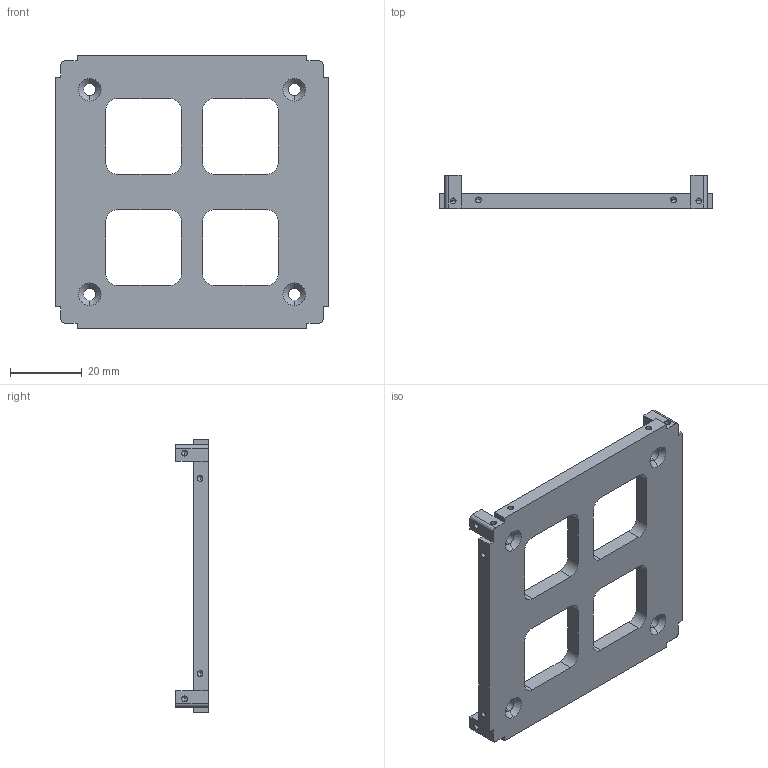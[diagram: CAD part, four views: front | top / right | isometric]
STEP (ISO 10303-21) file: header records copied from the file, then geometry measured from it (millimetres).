
FILE_DESCRIPTION (( 'STEP AP214' ), '1' );
FILE_NAME ('Bottom_Lid_v5.STEP', '2025-01-13T17:24:29', ( '' ), ( '' ), 'SwSTEP 2.0', 'SolidWorks 2022', '' );
FILE_SCHEMA (( 'AUTOMOTIVE_DESIGN' ));
Length unit declared in the file: millimetre
Products named in the file (1): Bottom_Lid_v5
Bounding box: 76 x 9.1 x 76 mm (x, y, z)
Volume: 16354 mm3; surface area: 11277.3 mm2
Topology: 1 solids, 1 shells, 170 faces, 440 edges, 256 vertices
Faces by surface type: cylinder 64, cone 56, plane 50
Entity records: 4986 total; most frequent: DIRECTION 902, CARTESIAN_POINT 835, ORIENTED_EDGE 816, EDGE_CURVE 408, AXIS2_PLACEMENT_3D 323, LINE 256, VERTEX_POINT 256, VECTOR 256
